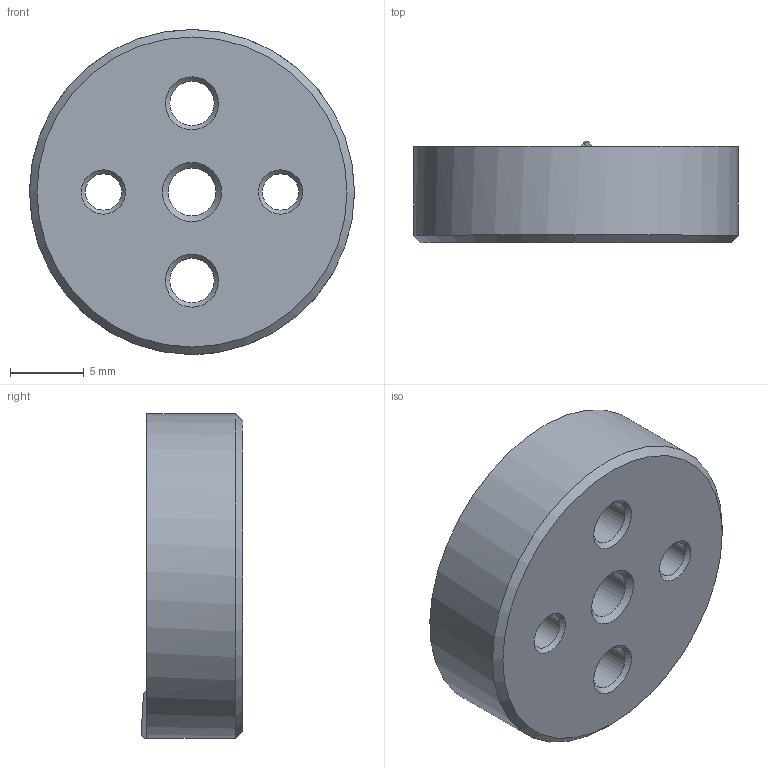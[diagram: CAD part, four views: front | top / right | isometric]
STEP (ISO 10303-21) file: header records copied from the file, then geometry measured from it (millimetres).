
FILE_DESCRIPTION( ( 'STEP AP203' ), '1' );
FILE_NAME( 'C:/Temp/Ganter_Step_05_03_2020/data/3_2/gn187_4/gn187_4_st/Serrated locking plate GN 187.4-22-48-C-ST.stp', '2020-03-13T05:25:41', ( 'License CC BY-ND 4.0' ), ( 'CADENAS' ), ' ', 'PARTsolutions', ' ' );
FILE_SCHEMA( ( 'CONFIG_CONTROL_DESIGN' ) );
Length unit declared in the file: millimetre
Products named in the file (1): _Serrated locking plate GN 187.4-22-48-C-ST
Bounding box: 22 x 6.89 x 22 mm (x, y, z)
Volume: 2093.4 mm3; surface area: 1410.4 mm2
Topology: 1 solids, 1 shells, 30 faces, 74 edges, 46 vertices
Faces by surface type: cone 14, cylinder 9, plane 7
Full cylindrical faces by diameter (mm): 2.459 x2, 3 x2, 3.242 x1, 15.5 x1, 22 x1
Entity records: 924 total; most frequent: CARTESIAN_POINT 229, DIRECTION 142, ORIENTED_EDGE 106, AXIS2_PLACEMENT_3D 68, EDGE_LOOP 58, EDGE_CURVE 53, VERTEX_POINT 43, FACE_OUTER_BOUND 37
